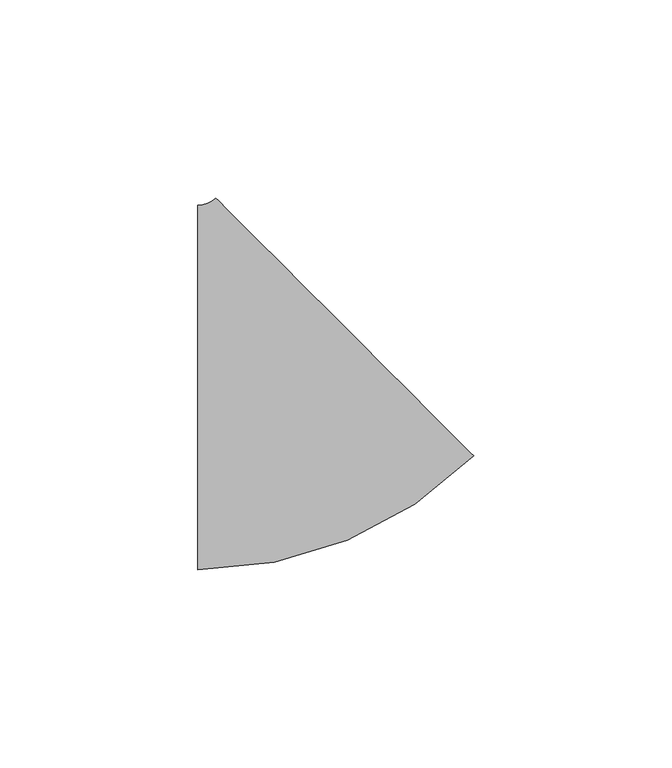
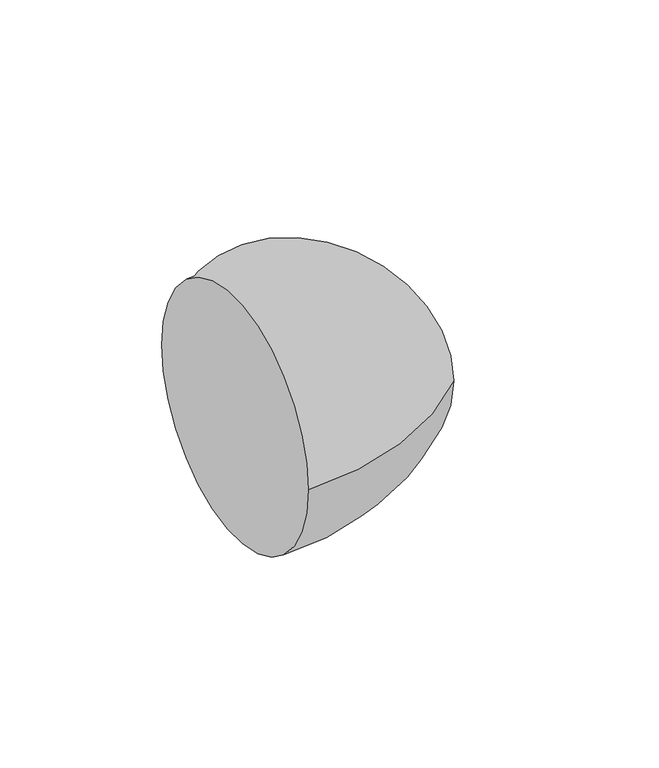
"""IFC4 building model written with IfcOpenShell, lengths in millimetres: pipe fitting geometry, M_Codo - Genérico : Estándar."""

from ifc_helpers import new_model, si_unit, point, frame, origin, place, context, project, spatial, circle_curve, ellipse_curve, trimmed, source, transform, mapped, element, save
from ifc_brep_helpers import plane_surface, revolved_surface, advanced_brep


def pipe_fitting_8877fa9a(model_context):
    return source(origin(), model_context, "Body", "AdvancedBrep", [
        advanced_brep(
        [(-21.6981524, -46.0375, 0.0), (-21.6981524, 46.0375, 0.0), (47.8955199, -17.2127974, 0.0), (-17.208238, 47.8971582, 0.0)],
        [
            (0, 1, circle_curve(frame((-21.6981524, 0.0, 0.0), z_axis=(-1.0, 0.0, 0.0), x_axis=(0.0, 1.0, 0.0)), 46.0375)),
            (1, 0, circle_curve(frame((-21.6981524, 0.0, 0.0), z_axis=(-1.0, 0.0, 0.0), x_axis=(0.0, 1.0, 0.0)), 46.0375)),
            (2, 3, circle_curve(frame((15.3436409, 15.3421804, 0.0), z_axis=(0.7071404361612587, 0.7070731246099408, 0.0), x_axis=(-0.7070731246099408, 0.7071404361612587, 0.0)), 46.0375)),
            (3, 2, circle_curve(frame((15.3436409, 15.3421804, 0.0), z_axis=(0.7071404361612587, 0.7070731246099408, 0.0), x_axis=(-0.7070731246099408, 0.7071404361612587, 0.0)), 46.0375)),
            (3, 1, circle_curve(frame((-21.6981524, 52.3875, 0.0), z_axis=(0.0, 0.0, -1.0), x_axis=(0.0, -1.0, 0.0)), 6.35)),
            (0, 2, circle_curve(frame((-21.6981524, 52.3875, 0.0), z_axis=(0.0, 0.0, 1.0), x_axis=(0.0, -1.0, 0.0)), 98.425)),
        ],
        [
            plane_surface(frame((-21.6981524, 0.0, 0.0), z_axis=(-1.0, 0.0, 0.0), x_axis=(0.0, 0.0, 1.0))),
            plane_surface(frame((15.3436409, 15.3421804, 0.0), z_axis=(0.7071404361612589, 0.7070731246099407, 0.0), x_axis=(0.0, 0.0, 1.0))),
            revolved_surface(trimmed(ellipse_curve(frame((-21.6981524, 0.0, 0.0), z_axis=(-1.0, 0.0, 0.0), x_axis=(0.0, 1.0, 0.0)), 46.0375, 46.0375), [point((-21.6981524, -46.0375, 0.0))], [point((-21.6981524, 46.0375, 0.0))], True, "CARTESIAN"), (-21.6981524, 52.3875, 0.0), (0.0, 0.0, 1.0)),
            revolved_surface(trimmed(ellipse_curve(frame((-21.6981524, 0.0, 0.0), z_axis=(-1.0, 0.0, 0.0), x_axis=(0.0, 1.0, 0.0)), 46.0375, 46.0375), [point((-21.6981524, 46.0375, 0.0))], [point((-21.6981524, -46.0375, 0.0))], True, "CARTESIAN"), (-21.6981524, 52.3875, 0.0), (0.0, 0.0, 1.0)),
        ],
        [
            (0, [[1, 2]]),
            (1, [[3, 4]]),
            (2, [[5, -1, 6, -4]]),
            (3, [[-6, -2, -5, -3]]),
        ],
    ),
    ])


if __name__ == "__main__":
    model = new_model("IFC4")
    model_context = context("Model", 3, world=origin())
    ifc_project = project(units=[si_unit("LENGTHUNIT", "METRE", prefix="MILLI")], contexts=[model_context])
    site = spatial("IfcSite", under=ifc_project)
    building = spatial("IfcBuilding", under=site)
    placement = place(None, origin())
    pipe_fitting_shape = pipe_fitting_8877fa9a(model_context)
    element("IfcPipeFitting", 1, ObjectType="M_Codo - Genérico : Estándar", at=placement, inside=building, context=model_context, shape_type="MappedRepresentation", body=[
        mapped(pipe_fitting_shape, transform((0.0, 0.0, 0.0), x_axis=(1.0, 0.0, 0.0), y_axis=(0.0, 1.0, 0.0), z_axis=(0.0, 0.0, 1.0))),
    ])
    save(model, "model.ifc")
